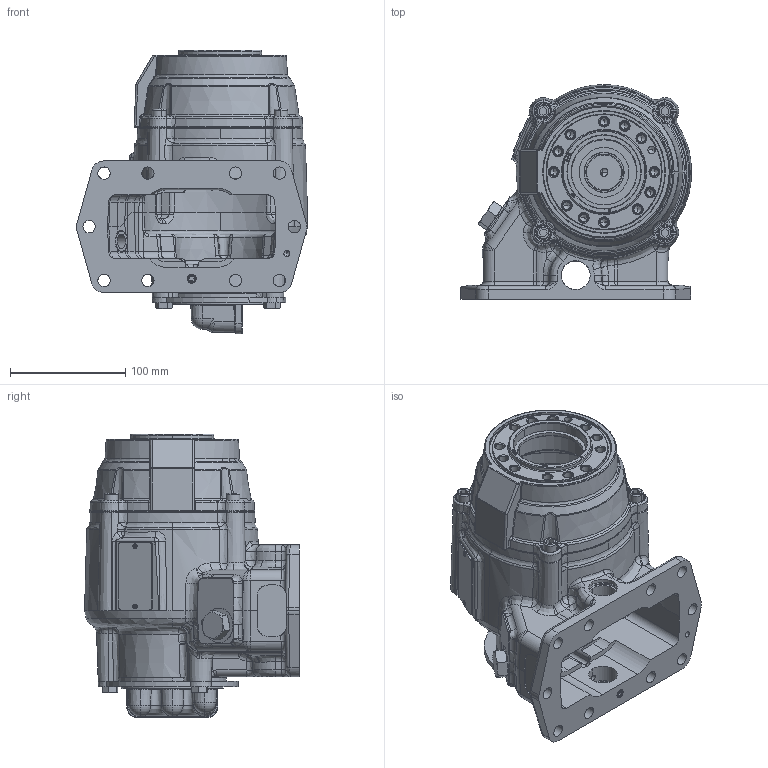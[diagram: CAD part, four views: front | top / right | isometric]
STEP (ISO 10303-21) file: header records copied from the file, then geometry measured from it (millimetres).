
FILE_DESCRIPTION (( 'STEP AP203' ), '1' );
FILE_NAME ('A30-XXXXX-MX1BBPX.STEP', '2021-07-15T14:04:10', ( '' ), ( '' ), 'SwSTEP 2.0', 'SolidWorks 2021', '' );
FILE_SCHEMA (( 'CONFIG_CONTROL_DESIGN' ));
Length unit declared in the file: millimetre
Products named in the file (1): A30-XXXXX-MX1BBPX
Bounding box: 200.33 x 186.36 x 245.95 mm (x, y, z)
Surface area: 373375.4 mm2 (no closed solid volume)
Topology: 0 solids, 23 shells, 2380 faces, 5849 edges, 3548 vertices
Faces by surface type: bspline 737, plane 675, cylinder 510, cone 317, torus 129, sphere 12
Entity records: 118058 total; most frequent: CARTESIAN_POINT 67415, ORIENTED_EDGE 11478, DIRECTION 9124, EDGE_CURVE 5748, VERTEX_POINT 3548, AXIS2_PLACEMENT_3D 3446, EDGE_LOOP 2589, ADVANCED_FACE 2380
